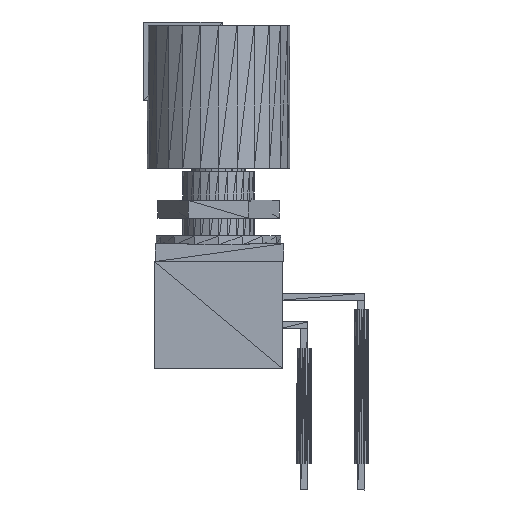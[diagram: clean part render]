
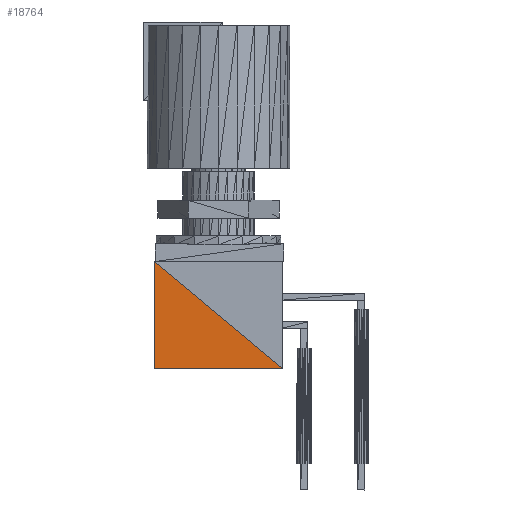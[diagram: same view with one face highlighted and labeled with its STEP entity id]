
A CAD part, left-side view. The second image highlights one B-rep face of the part: STEP entity #18764.
In plain terms, the highlighted planar face has unit normal (-1, 0, 0).
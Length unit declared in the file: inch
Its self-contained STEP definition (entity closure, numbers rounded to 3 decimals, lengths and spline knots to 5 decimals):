
#18572=CARTESIAN_POINT('',(-0.1875,0.22483,0.70855));
#18573=VERTEX_POINT('',#18572);
#18625=CARTESIAN_POINT('',(-0.1875,-0.2251,0.33345));
#18626=VERTEX_POINT('',#18625);
#18711=CARTESIAN_POINT('',(-0.1875,0.2249,0.33355));
#18712=VERTEX_POINT('',#18711);
#18734=CARTESIAN_POINT('',(-0.1875,0.2249,0.33355));
#18735=DIRECTION('',(0.,0.,1.));
#18736=VECTOR('',#18735,0.375);
#18737=LINE('',#18734,#18736);
#18738=EDGE_CURVE('',#18712,#18573,#18737,.T.);
#18744=CARTESIAN_POINT('',(-0.1875,0.22483,0.70855));
#18745=DIRECTION('',(1.,0.,0.));
#18746=DIRECTION('',(0.,1.,0.));
#18747=AXIS2_PLACEMENT_3D('',#18744,#18745,#18746);
#18748=PLANE('',#18747);
#18749=ORIENTED_EDGE('',*,*,#18738,.F.);
#18750=CARTESIAN_POINT('',(-0.1875,-0.2251,0.33345));
#18751=DIRECTION('',(0.,1.,0.));
#18752=VECTOR('',#18751,0.45);
#18753=LINE('',#18750,#18752);
#18754=EDGE_CURVE('',#18626,#18712,#18753,.T.);
#18755=ORIENTED_EDGE('',*,*,#18754,.F.);
#18756=CARTESIAN_POINT('',(-0.1875,-0.2251,0.33345));
#18757=DIRECTION('',(0.,0.768,0.64));
#18758=VECTOR('',#18757,0.58577);
#18759=LINE('',#18756,#18758);
#18760=EDGE_CURVE('',#18626,#18573,#18759,.T.);
#18761=ORIENTED_EDGE('',*,*,#18760,.T.);
#18762=EDGE_LOOP('',(#18749,#18755,#18761));
#18763=FACE_BOUND('',#18762,.T.);
#18764=ADVANCED_FACE('',(#18763),#18748,.F.);
